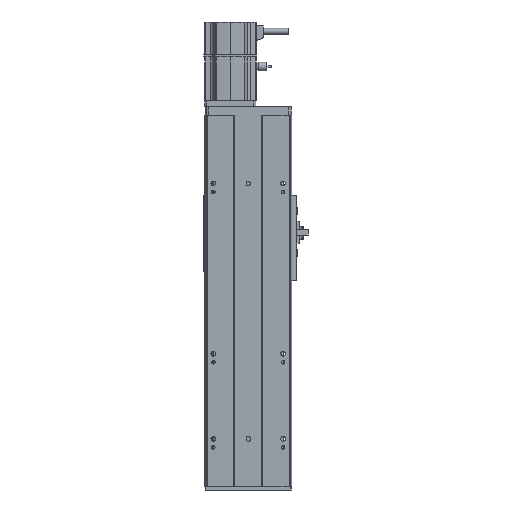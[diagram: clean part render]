
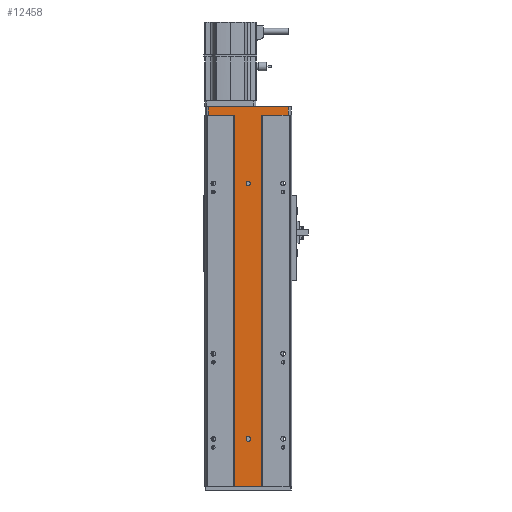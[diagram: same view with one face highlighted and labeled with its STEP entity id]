
A CAD part, front view. The second image highlights one B-rep face of the part: STEP entity #12458.
In plain terms, the highlighted planar face has unit normal (0, -1, 0).
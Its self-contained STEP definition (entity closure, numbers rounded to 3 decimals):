
#400 = CIRCLE ( 'NONE', #532, 2.5 ) ;
#517 = CARTESIAN_POINT ( 'NONE',  ( 15.793, 0., -329. ) ) ;
#532 = AXIS2_PLACEMENT_3D ( 'NONE', #13226, #1950, #15133 ) ;
#746 = VECTOR ( 'NONE', #1797, 1000. ) ;
#1035 = ORIENTED_EDGE ( 'NONE', *, *, #4542, .F. ) ;
#1236 = DIRECTION ( 'NONE',  ( 0., -1., 0. ) ) ;
#1357 = DIRECTION ( 'NONE',  ( 0., -1., 0. ) ) ;
#1724 = LINE ( 'NONE', #4424, #6770 ) ;
#1797 = DIRECTION ( 'NONE',  ( 0., 0., -1. ) ) ;
#1827 = EDGE_LOOP ( 'NONE', ( #7610, #1035, #3302, #13313, #21047 ) ) ;
#1950 = DIRECTION ( 'NONE',  ( 0., -1., 0. ) ) ;
#1979 = DIRECTION ( 'NONE',  ( 0., -1., 0. ) ) ;
#1996 = CARTESIAN_POINT ( 'NONE',  ( 15.793, 0., 0. ) ) ;
#2372 = LINE ( 'NONE', #22673, #17396 ) ;
#2886 = CARTESIAN_POINT ( 'NONE',  ( 0., 0., 29.5 ) ) ;
#3302 = ORIENTED_EDGE ( 'NONE', *, *, #22660, .F. ) ;
#3615 = VERTEX_POINT ( 'NONE', #4960 ) ;
#3698 = ORIENTED_EDGE ( 'NONE', *, *, #15575, .F. ) ;
#3705 = AXIS2_PLACEMENT_3D ( 'NONE', #12641, #1357, #14533 ) ;
#4019 = DIRECTION ( 'NONE',  ( 0., -1., 0. ) ) ;
#4063 = CIRCLE ( 'NONE', #6380, 2.5 ) ;
#4224 = DIRECTION ( 'NONE',  ( 0., -1., 0. ) ) ;
#4363 = EDGE_CURVE ( 'NONE', #13157, #5460, #400, .T. ) ;
#4385 = VERTEX_POINT ( 'NONE', #5771 ) ;
#4424 = CARTESIAN_POINT ( 'NONE',  ( -15.793, 0., 0. ) ) ;
#4542 = EDGE_CURVE ( 'NONE', #15137, #13157, #11298, .T. ) ;
#4960 = CARTESIAN_POINT ( 'NONE',  ( -15.793, 0., 107. ) ) ;
#5460 = VERTEX_POINT ( 'NONE', #15076 ) ;
#5535 = EDGE_LOOP ( 'NONE', ( #8421, #3698 ) ) ;
#5754 = VERTEX_POINT ( 'NONE', #2886 ) ;
#5771 = CARTESIAN_POINT ( 'NONE',  ( -47.001, 0., 107. ) ) ;
#5942 = EDGE_CURVE ( 'NONE', #9621, #16733, #2372, .T. ) ;
#6380 = AXIS2_PLACEMENT_3D ( 'NONE', #15486, #4224, #17380 ) ;
#6412 = CARTESIAN_POINT ( 'NONE',  ( -1.986, 0., 117. ) ) ;
#6426 = DIRECTION ( 'NONE',  ( 0., 0., 1. ) ) ;
#6770 = VECTOR ( 'NONE', #9944, 1000. ) ;
#7026 = EDGE_CURVE ( 'NONE', #3615, #13450, #1724, .T. ) ;
#7079 = CARTESIAN_POINT ( 'NONE',  ( 0., 0., -276. ) ) ;
#7082 = LINE ( 'NONE', #21502, #12103 ) ;
#7378 = EDGE_CURVE ( 'NONE', #10765, #9621, #23403, .T. ) ;
#7427 = EDGE_CURVE ( 'NONE', #13029, #4385, #18463, .T. ) ;
#7610 = ORIENTED_EDGE ( 'NONE', *, *, #4363, .F. ) ;
#8087 = CARTESIAN_POINT ( 'NONE',  ( 47.001, 0., 117. ) ) ;
#8213 = CARTESIAN_POINT ( 'NONE',  ( -15.793, 0., -329. ) ) ;
#8263 = CARTESIAN_POINT ( 'NONE',  ( 47.001, 0., 107. ) ) ;
#8397 = ORIENTED_EDGE ( 'NONE', *, *, #7026, .T. ) ;
#8421 = ORIENTED_EDGE ( 'NONE', *, *, #18606, .F. ) ;
#8527 = EDGE_CURVE ( 'NONE', #13029, #14463, #12913, .T. ) ;
#8803 = FACE_BOUND ( 'NONE', #5535, .T. ) ;
#9089 = VECTOR ( 'NONE', #15174, 1000. ) ;
#9114 = CARTESIAN_POINT ( 'NONE',  ( 2.5, 0., -272.5 ) ) ;
#9287 = ORIENTED_EDGE ( 'NONE', *, *, #7378, .T. ) ;
#9337 = LINE ( 'NONE', #13536, #23649 ) ;
#9621 = VERTEX_POINT ( 'NONE', #21712 ) ;
#9785 = AXIS2_PLACEMENT_3D ( 'NONE', #10630, #1236, #14401 ) ;
#9944 = DIRECTION ( 'NONE',  ( 0., 0., -1. ) ) ;
#10032 = CARTESIAN_POINT ( 'NONE',  ( 2.5, 0., 0. ) ) ;
#10077 = ORIENTED_EDGE ( 'NONE', *, *, #23753, .F. ) ;
#10245 = ORIENTED_EDGE ( 'NONE', *, *, #8527, .F. ) ;
#10630 = CARTESIAN_POINT ( 'NONE',  ( 15.793, 0., 0. ) ) ;
#10765 = VERTEX_POINT ( 'NONE', #14771 ) ;
#11298 = LINE ( 'NONE', #10032, #15708 ) ;
#11371 = LINE ( 'NONE', #13078, #746 ) ;
#11527 = DIRECTION ( 'NONE',  ( 1., 0., 0. ) ) ;
#12103 = VECTOR ( 'NONE', #15951, 1000. ) ;
#12458 = ADVANCED_FACE ( 'NONE', ( #18757, #8803, #14975 ), #18092, .T. ) ;
#12527 = ORIENTED_EDGE ( 'NONE', *, *, #21827, .F. ) ;
#12641 = CARTESIAN_POINT ( 'NONE',  ( 0., 0., 27. ) ) ;
#12913 = LINE ( 'NONE', #6412, #16439 ) ;
#13029 = VERTEX_POINT ( 'NONE', #23488 ) ;
#13078 = CARTESIAN_POINT ( 'NONE',  ( -2.5, 0., 0. ) ) ;
#13157 = VERTEX_POINT ( 'NONE', #9114 ) ;
#13226 = CARTESIAN_POINT ( 'NONE',  ( 0., 0., -272.5 ) ) ;
#13252 = CARTESIAN_POINT ( 'NONE',  ( 0., 0., -273.5 ) ) ;
#13313 = ORIENTED_EDGE ( 'NONE', *, *, #22722, .F. ) ;
#13362 = EDGE_CURVE ( 'NONE', #14463, #16733, #9337, .T. ) ;
#13410 = LINE ( 'NONE', #517, #22727 ) ;
#13450 = VERTEX_POINT ( 'NONE', #8213 ) ;
#13536 = CARTESIAN_POINT ( 'NONE',  ( 47.001, 0., 107. ) ) ;
#13876 = DIRECTION ( 'NONE',  ( 1., 0., 0. ) ) ;
#14080 = ORIENTED_EDGE ( 'NONE', *, *, #7427, .T. ) ;
#14401 = DIRECTION ( 'NONE',  ( 0., 0., -1. ) ) ;
#14463 = VERTEX_POINT ( 'NONE', #8087 ) ;
#14533 = DIRECTION ( 'NONE',  ( 0., 0., -1. ) ) ;
#14771 = CARTESIAN_POINT ( 'NONE',  ( 15.793, 0., -329. ) ) ;
#14975 = FACE_OUTER_BOUND ( 'NONE', #17079, .T. ) ;
#15076 = CARTESIAN_POINT ( 'NONE',  ( -2.5, 0., -272.5 ) ) ;
#15125 = CIRCLE ( 'NONE', #3705, 2.5 ) ;
#15133 = DIRECTION ( 'NONE',  ( 0., 0., -1. ) ) ;
#15137 = VERTEX_POINT ( 'NONE', #21894 ) ;
#15161 = DIRECTION ( 'NONE',  ( 0., 0., -1. ) ) ;
#15174 = DIRECTION ( 'NONE',  ( 0., 0., 1. ) ) ;
#15283 = CARTESIAN_POINT ( 'NONE',  ( 0., 0., 27. ) ) ;
#15486 = CARTESIAN_POINT ( 'NONE',  ( 0., 0., -273.5 ) ) ;
#15575 = EDGE_CURVE ( 'NONE', #5754, #22507, #15125, .T. ) ;
#15577 = DIRECTION ( 'NONE',  ( -1., 0., 0. ) ) ;
#15708 = VECTOR ( 'NONE', #6426, 1000. ) ;
#15849 = CIRCLE ( 'NONE', #21829, 2.5 ) ;
#15951 = DIRECTION ( 'NONE',  ( -1., 0., 0. ) ) ;
#16439 = VECTOR ( 'NONE', #13876, 1000. ) ;
#16733 = VERTEX_POINT ( 'NONE', #8263 ) ;
#16997 = VERTEX_POINT ( 'NONE', #7079 ) ;
#17079 = EDGE_LOOP ( 'NONE', ( #8397, #10077, #9287, #19037, #18792, #10245, #14080, #12527 ) ) ;
#17185 = DIRECTION ( 'NONE',  ( 0., 0., -1. ) ) ;
#17237 = CARTESIAN_POINT ( 'NONE',  ( -47.001, 0., 0. ) ) ;
#17380 = DIRECTION ( 'NONE',  ( 0., 0., -1. ) ) ;
#17396 = VECTOR ( 'NONE', #11527, 1000. ) ;
#18092 = PLANE ( 'NONE',  #9785 ) ;
#18463 = LINE ( 'NONE', #17237, #22200 ) ;
#18606 = EDGE_CURVE ( 'NONE', #22507, #5754, #19608, .T. ) ;
#18757 = FACE_BOUND ( 'NONE', #1827, .T. ) ;
#18792 = ORIENTED_EDGE ( 'NONE', *, *, #13362, .F. ) ;
#18885 = CARTESIAN_POINT ( 'NONE',  ( -2.5, 0., -273.5 ) ) ;
#19037 = ORIENTED_EDGE ( 'NONE', *, *, #5942, .T. ) ;
#19608 = CIRCLE ( 'NONE', #21449, 2.5 ) ;
#19797 = CARTESIAN_POINT ( 'NONE',  ( 0., 0., 24.5 ) ) ;
#21047 = ORIENTED_EDGE ( 'NONE', *, *, #24146, .F. ) ;
#21449 = AXIS2_PLACEMENT_3D ( 'NONE', #15283, #4019, #17185 ) ;
#21502 = CARTESIAN_POINT ( 'NONE',  ( 0., 0., 107. ) ) ;
#21712 = CARTESIAN_POINT ( 'NONE',  ( 15.793, 0., 107. ) ) ;
#21827 = EDGE_CURVE ( 'NONE', #3615, #4385, #7082, .T. ) ;
#21829 = AXIS2_PLACEMENT_3D ( 'NONE', #13252, #1979, #15161 ) ;
#21894 = CARTESIAN_POINT ( 'NONE',  ( 2.5, 0., -273.5 ) ) ;
#22200 = VECTOR ( 'NONE', #22783, 1000. ) ;
#22507 = VERTEX_POINT ( 'NONE', #19797 ) ;
#22660 = EDGE_CURVE ( 'NONE', #16997, #15137, #15849, .T. ) ;
#22673 = CARTESIAN_POINT ( 'NONE',  ( 15.793, 0., 107. ) ) ;
#22722 = EDGE_CURVE ( 'NONE', #24185, #16997, #4063, .T. ) ;
#22727 = VECTOR ( 'NONE', #15577, 1000. ) ;
#22783 = DIRECTION ( 'NONE',  ( 0., 0., -1. ) ) ;
#22802 = DIRECTION ( 'NONE',  ( 0., 0., -1. ) ) ;
#23403 = LINE ( 'NONE', #1996, #9089 ) ;
#23488 = CARTESIAN_POINT ( 'NONE',  ( -47.001, 0., 117. ) ) ;
#23649 = VECTOR ( 'NONE', #22802, 1000. ) ;
#23753 = EDGE_CURVE ( 'NONE', #10765, #13450, #13410, .T. ) ;
#24146 = EDGE_CURVE ( 'NONE', #5460, #24185, #11371, .T. ) ;
#24185 = VERTEX_POINT ( 'NONE', #18885 ) ;
